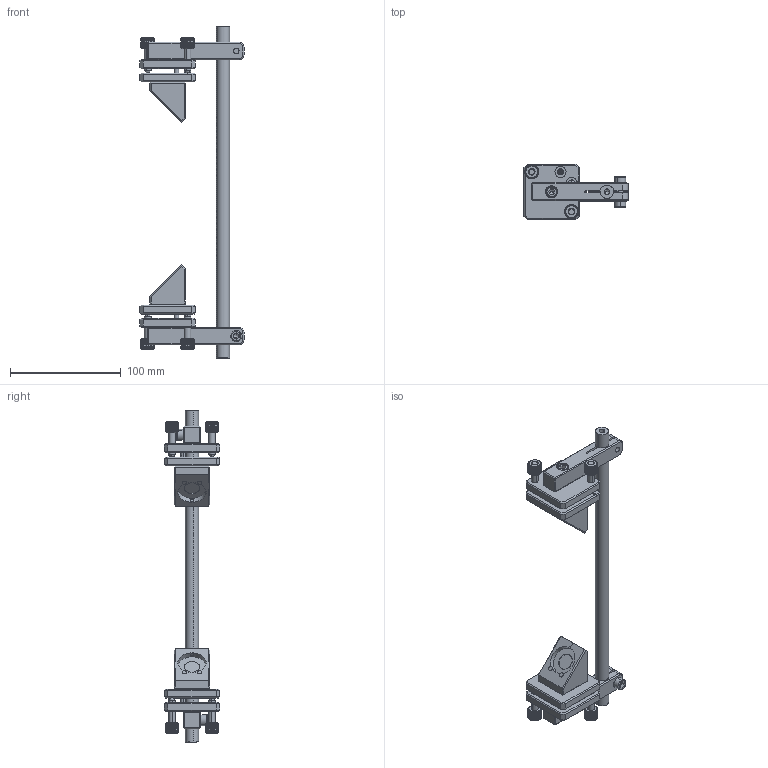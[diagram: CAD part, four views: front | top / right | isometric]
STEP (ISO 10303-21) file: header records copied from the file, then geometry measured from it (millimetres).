
FILE_DESCRIPTION (( 'STEP AP203' ), '1' );
FILE_NAME ('HGMMS125.STEP', '2021-01-21T02:26:19', ( 'yunke' ), ( '' ), 'SwSTEP 2.0', 'SolidWorks 2020', '' );
FILE_SCHEMA (( 'CONFIG_CONTROL_DESIGN' ));
Length unit declared in the file: millimetre
Products named in the file (18): hex socket set screws with cone point gb_GB_FASTENER_SCREWS_HSCP M3X3-N; cross recessed pan head screws gb_GB_CROSS_SCREWS_TYPE1 M3X6-6  H type-N; HGMMS120-3 光束转折架调节板; HGMMS125; hexagon socket head cap screws gb_GB_FASTENER_SCREWS_HSHCS M6X16-N; 鼠蚚蟀諉璃-肣秶; 幗紩 耳6; HGMMS125-4 光束转折架反光板; HGMMS120-2 光束转折架活动版; hexagon socket head cap screws gb_GB_FASTENER_SCREWS_HSHCS M6X12-N; hexagon socket head cap screws gb_GB_FASTENER_SCREWS_HSHCS M3X8-N; hex socket set screws with flat point gb_GB_FASTENER_SCREWS_HSFP M4X5-N; D12.5d6M3 幗豪忒謫; HGMP2300 盓傅裝; M6x0.25-20-30 蹟恇裝; HGMMS120-5 光束转折架镜片固定柱; 幗紩 耳4; HGMMS120-1 光束转折架固定板
Assembly tree (57 placements, depth 2):
  HGMMS125
    HGMMS120-1 光束转折架固定板  x2
    HGMMS120-2 光束转折架活动版  x2
    HGMP2300 盓傅裝
    HGMMS120-3 光束转折架调节板  x2
    HGMMS125-4 光束转折架反光板  x2
    hexagon socket head cap screws gb_GB_FASTENER_SCREWS_HSHCS M6X12-N  x2
    hex socket set screws with flat point gb_GB_FASTENER_SCREWS_HSFP M4X5-N  x2
    hexagon socket head cap screws gb_GB_FASTENER_SCREWS_HSHCS M6X16-N  x2
    hexagon socket head cap screws gb_GB_FASTENER_SCREWS_HSHCS M3X8-N  x8
    鼠蚚蟀諉璃-肣秶  x4
    cross recessed pan head screws gb_GB_CROSS_SCREWS_TYPE1 M3X6-6  H type-N  x8
    HGMMS120-5 光束转折架镜片固定柱  x4
    M6x0.25-20-30 蹟恇裝  x4
    D12.5d6M3 幗豪忒謫  x4
    幗紩 耳6  x2
    幗紩 耳4  x4
    hex socket set screws with cone point gb_GB_FASTENER_SCREWS_HSCP M3X3-N  x4
Bounding box: 94 x 50 x 300 mm (x, y, z)
Volume: 196466.1 mm3; surface area: 79632.2 mm2
Topology: 57 solids, 57 shells, 2024 faces, 5298 edges, 3370 vertices
Faces by surface type: plane 1198, cylinder 608, cone 162, sphere 32, torus 24
Entity records: 21523 total; most frequent: CARTESIAN_POINT 4174, ORIENTED_EDGE 3000, DIRECTION 2974, EDGE_CURVE 1500, AXIS2_PLACEMENT_3D 1120, VERTEX_POINT 959, LINE 734, VECTOR 734
